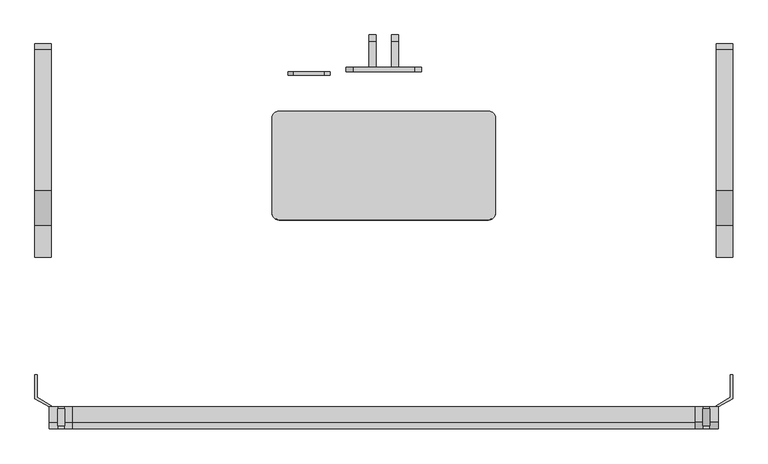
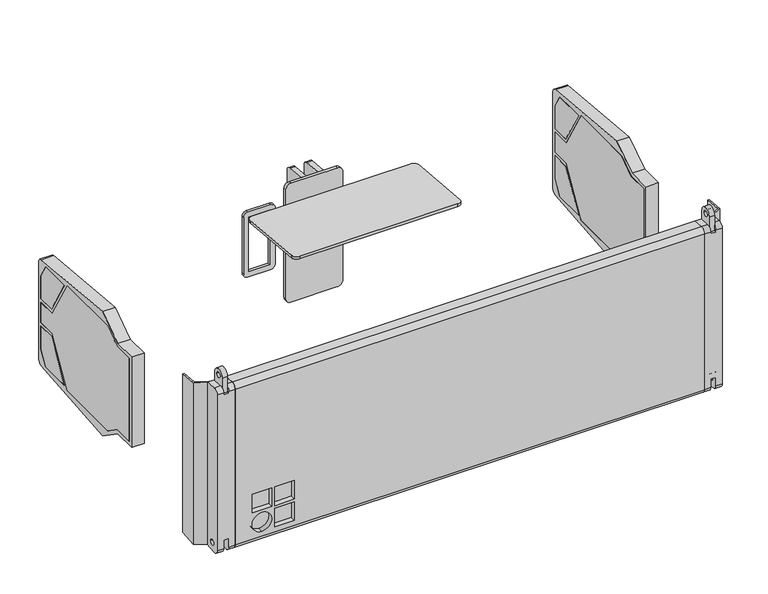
"""IFC4 building model written with IfcOpenShell, lengths in millimetres: proxy geometry, d&b SL-Series KSLi : KSLi12."""

from ifc_helpers import new_model, si_unit, point, frame, frame_2d, origin, place, context, project, spatial, polyline, circle_curve, trimmed, segment, composite_curve, outline, extrude, faceted_brep, source, transform, mapped, element, save
from ifc_brep_helpers import plane_surface, cylinder_surface, revolved_surface, advanced_brep


def communication_devices_46ae4256(model_context):
    return source(origin(), model_context, "Body", "SolidModel", [
        extrude(outline(polyline([(147.6255973, -27.5), (182.6255973, -27.5), (182.6255973, -73.3671206), (167.1479395, -100.1752104), (105.666545, -100.1752104), (147.6255973, -27.5)])), frame((976.4, 0.0, 0.0), z_axis=(1.0, 0.0, 0.0), x_axis=(0.0, 1.0, 0.0)), (0.0, 0.0, 1.0), 23.6),
        extrude(outline(polyline([(147.6255973, 27.5), (105.666545, 100.1752104), (167.1479395, 100.1752104), (182.6255973, 73.3671206), (182.6255973, 27.5), (147.6255973, 27.5)])), frame((976.4, 0.0, 0.0), z_axis=(1.0, 0.0, 0.0), x_axis=(0.0, 1.0, 0.0)), (0.0, 0.0, 1.0), 23.6),
        extrude(outline(polyline([(-108.1244027, 83.5), (-68.3181857, 83.5), (-36.4059524, 105.1752104), (97.006291, 105.1752104), (146.1822216, 20.0), (182.6255973, 20.0), (182.6255973, -20.0), (146.1822216, -20.0), (97.006291, -105.1752104), (-36.4059524, -105.1752104), (-68.3181857, -83.5), (-108.1244027, -83.5), (-108.1244027, 83.5)])), frame((976.4, 0.0, 0.0), z_axis=(1.0, 0.0, 0.0), x_axis=(0.0, 1.0, 0.0)), (0.0, 0.0, 1.0), 23.6),
        extrude(outline(composite_curve([segment(polyline([(-115.6244027, 91.0), (-70.6244027, 91.0), (-20.6244027, 124.9606604), (181.0406135, 106.4302485)]), True, "CONTINUOUS"), segment(trimmed(circle_curve(frame_2d((180.1255973, 96.4721993)), 10.0), [point((181.0406135, 106.4302485))], [point((190.1255973, 96.4721993))], False, "CARTESIAN"), True, "CONTINUOUS"), segment(polyline([(190.1255973, 96.4721993), (190.1255973, -96.4721993)]), True, "CONTINUOUS"), segment(trimmed(circle_curve(frame_2d((180.1255973, -96.4721993)), 10.0), [point((190.1255973, -96.4721993))], [point((181.0406135, -106.4302485))], False, "CARTESIAN"), True, "CONTINUOUS"), segment(polyline([(181.0406135, -106.4302485), (-20.6244027, -124.9606604), (-70.6244027, -91.0), (-115.6244027, -91.0), (-115.6244027, 91.0)]), True, "CONTINUOUS")], self_intersect=False), holes=[polyline([(105.666545, -100.1752104), (167.1479395, -100.1752104), (182.6255973, -73.3671206), (182.6255973, -27.5), (147.6255973, -27.5), (105.666545, -100.1752104)]), polyline([(-108.1244027, -83.5), (-68.3181857, -83.5), (-36.4059524, -105.1752104), (97.006291, -105.1752104), (146.1822216, -20.0), (182.6255973, -20.0), (182.6255973, 20.0), (146.1822216, 20.0), (97.006291, 105.1752104), (-36.4059524, 105.1752104), (-68.3181857, 83.5), (-108.1244027, 83.5), (-108.1244027, -83.5)]), polyline([(105.666545, 100.1752104), (147.6255973, 27.5), (182.6255973, 27.5), (182.6255973, 73.3671206), (167.1479395, 100.1752104), (105.666545, 100.1752104)])]), frame((976.4, 0.0, 0.0), z_axis=(1.0, 0.0, 0.0), x_axis=(0.0, 1.0, 0.0)), (0.0, 0.0, 1.0), 23.6),
        extrude(outline(polyline([(147.6255973, -27.5), (182.6255973, -27.5), (182.6255973, -73.3671206), (167.1479395, -100.1752104), (105.666545, -100.1752104), (147.6255973, -27.5)])), frame((0.0, 0.0, 0.0), z_axis=(1.0, 0.0, 0.0), x_axis=(0.0, 1.0, 0.0)), (0.0, 0.0, 1.0), 23.6),
        extrude(outline(polyline([(147.6255973, 27.5), (105.666545, 100.1752104), (167.1479395, 100.1752104), (182.6255973, 73.3671206), (182.6255973, 27.5), (147.6255973, 27.5)])), frame((0.0, 0.0, 0.0), z_axis=(1.0, 0.0, 0.0), x_axis=(0.0, 1.0, 0.0)), (0.0, 0.0, 1.0), 23.6),
        extrude(outline(polyline([(-108.1244027, 83.5), (-68.3181857, 83.5), (-36.4059524, 105.1752104), (97.006291, 105.1752104), (146.1822216, 20.0), (182.6255973, 20.0), (182.6255973, -20.0), (146.1822216, -20.0), (97.006291, -105.1752104), (-36.4059524, -105.1752104), (-68.3181857, -83.5), (-108.1244027, -83.5), (-108.1244027, 83.5)])), frame((0.0, 0.0, 0.0), z_axis=(1.0, 0.0, 0.0), x_axis=(0.0, 1.0, 0.0)), (0.0, 0.0, 1.0), 23.6),
        extrude(outline(composite_curve([segment(polyline([(-115.6244027, 91.0), (-70.6244027, 91.0), (-20.6244027, 124.9606604), (181.0406135, 106.4302485)]), True, "CONTINUOUS"), segment(trimmed(circle_curve(frame_2d((180.1255973, 96.4721993)), 10.0), [point((181.0406135, 106.4302485))], [point((190.1255973, 96.4721993))], False, "CARTESIAN"), True, "CONTINUOUS"), segment(polyline([(190.1255973, 96.4721993), (190.1255973, -96.4721993)]), True, "CONTINUOUS"), segment(trimmed(circle_curve(frame_2d((180.1255973, -96.4721993)), 10.0), [point((190.1255973, -96.4721993))], [point((181.0406135, -106.4302485))], False, "CARTESIAN"), True, "CONTINUOUS"), segment(polyline([(181.0406135, -106.4302485), (-20.6244027, -124.9606604), (-70.6244027, -91.0), (-115.6244027, -91.0), (-115.6244027, 91.0)]), True, "CONTINUOUS")], self_intersect=False), holes=[polyline([(105.666545, -100.1752104), (167.1479395, -100.1752104), (182.6255973, -73.3671206), (182.6255973, -27.5), (147.6255973, -27.5), (105.666545, -100.1752104)]), polyline([(-108.1244027, -83.5), (-68.3181857, -83.5), (-36.4059524, -105.1752104), (97.006291, -105.1752104), (146.1822216, -20.0), (182.6255973, -20.0), (182.6255973, 20.0), (146.1822216, 20.0), (97.006291, 105.1752104), (-36.4059524, 105.1752104), (-68.3181857, 83.5), (-108.1244027, 83.5), (-108.1244027, -83.5)]), polyline([(105.666545, 100.1752104), (147.6255973, 27.5), (182.6255973, 27.5), (182.6255973, 73.3671206), (167.1479395, 100.1752104), (105.666545, 100.1752104)])]), frame((0.0, 0.0, 0.0), z_axis=(1.0, 0.0, 0.0), x_axis=(0.0, 1.0, 0.0)), (0.0, 0.0, 1.0), 23.6),
        extrude(outline(composite_curve([segment(trimmed(circle_curve(frame_2d((-28.2001586, 371.0)), 8.0), [point((-28.2001586, 363.0))], [point((-36.2001586, 371.0))], False, "CARTESIAN"), True, "CONTINUOUS"), segment(polyline([(-36.2001586, 371.0), (-36.2001586, 415.0)]), True, "CONTINUOUS"), segment(trimmed(circle_curve(frame_2d((-28.2001586, 415.0)), 8.0), [point((-36.2001586, 415.0))], [point((-28.2001586, 423.0))], False, "CARTESIAN"), True, "CONTINUOUS"), segment(polyline([(-28.2001586, 423.0), (85.7998414, 423.0)]), True, "CONTINUOUS"), segment(trimmed(circle_curve(frame_2d((85.7998414, 415.0)), 8.0), [point((85.7998414, 423.0))], [point((93.7998414, 415.0))], False, "CARTESIAN"), True, "CONTINUOUS"), segment(polyline([(93.7998414, 415.0), (93.7998414, 371.0)]), True, "CONTINUOUS"), segment(trimmed(circle_curve(frame_2d((85.7998414, 371.0)), 8.0), [point((93.7998414, 371.0))], [point((85.7998414, 363.0))], False, "CARTESIAN"), True, "CONTINUOUS"), segment(polyline([(85.7998414, 363.0), (-28.2001586, 363.0)]), True, "CONTINUOUS")], self_intersect=False), holes=[polyline([(83.7998414, 373.0), (83.7998414, 413.0), (-26.2001586, 413.0), (-26.2001586, 373.0), (83.7998414, 373.0)])]), frame((0.0, 145.1255973, 0.0), z_axis=(0.0, 1.0, 0.0), x_axis=(0.0, 0.0, 1.0)), (0.0, 0.0, 1.0), 5.0),
        extrude(outline(composite_curve([segment(trimmed(circle_curve(frame_2d((192.6255973, -105.3657381)), 10.0), [point((202.6255973, -105.3657381))], [point((193.5406135, -115.3237873))], False, "CARTESIAN"), True, "CONTINUOUS"), segment(polyline([(193.5406135, -115.3237873), (156.1255973, -118.7617444), (156.1255973, 118.7617444), (193.5406135, 115.3237873)]), True, "CONTINUOUS"), segment(trimmed(circle_curve(frame_2d((192.6255973, 105.3657381)), 10.0), [point((193.5406135, 115.3237873))], [point((202.6255973, 105.3657381))], False, "CARTESIAN"), True, "CONTINUOUS"), segment(polyline([(202.6255973, 105.3657381), (202.6255973, -105.3657381)]), True, "CONTINUOUS")], self_intersect=False)), frame((511.25, 0.0, 0.0), z_axis=(1.0, 0.0, 0.0), x_axis=(0.0, 1.0, 0.0)), (0.0, 0.0, 1.0), 10.0),
        extrude(outline(composite_curve([segment(trimmed(circle_curve(frame_2d((192.6255973, -105.3657381)), 10.0), [point((202.6255973, -105.3657381))], [point((193.5406135, -115.3237873))], False, "CARTESIAN"), True, "CONTINUOUS"), segment(polyline([(193.5406135, -115.3237873), (156.1255973, -118.7617444), (156.1255973, 118.7617444), (193.5406135, 115.3237873)]), True, "CONTINUOUS"), segment(trimmed(circle_curve(frame_2d((192.6255973, 105.3657381)), 10.0), [point((193.5406135, 115.3237873))], [point((202.6255973, 105.3657381))], False, "CARTESIAN"), True, "CONTINUOUS"), segment(polyline([(202.6255973, 105.3657381), (202.6255973, -105.3657381)]), True, "CONTINUOUS")], self_intersect=False)), frame((478.75, 0.0, 0.0), z_axis=(1.0, 0.0, 0.0), x_axis=(0.0, 1.0, 0.0)), (0.0, 0.0, 1.0), 10.0),
        extrude(outline(composite_curve([segment(trimmed(circle_curve(frame_2d((-109.3130669, 456.0)), 10.0), [point((-109.3130669, 446.0))], [point((-119.3130669, 456.0))], False, "CARTESIAN"), True, "CONTINUOUS"), segment(polyline([(-119.3130669, 456.0), (-119.3130669, 544.0)]), True, "CONTINUOUS"), segment(trimmed(circle_curve(frame_2d((-109.3130669, 544.0)), 10.0), [point((-119.3130669, 544.0))], [point((-109.3130669, 554.0))], False, "CARTESIAN"), True, "CONTINUOUS"), segment(polyline([(-109.3130669, 554.0), (109.3130669, 554.0)]), True, "CONTINUOUS"), segment(trimmed(circle_curve(frame_2d((109.3130669, 544.0)), 10.0), [point((109.3130669, 554.0))], [point((119.3130669, 544.0))], False, "CARTESIAN"), True, "CONTINUOUS"), segment(polyline([(119.3130669, 544.0), (119.3130669, 456.0)]), True, "CONTINUOUS"), segment(trimmed(circle_curve(frame_2d((109.3130669, 456.0)), 10.0), [point((119.3130669, 456.0))], [point((109.3130669, 446.0))], False, "CARTESIAN"), True, "CONTINUOUS"), segment(polyline([(109.3130669, 446.0), (-109.3130669, 446.0)]), True, "CONTINUOUS")], self_intersect=False)), frame((0.0, 150.1255973, 0.0), z_axis=(0.0, 1.0, 0.0), x_axis=(0.0, 0.0, 1.0)), (0.0, 0.0, 1.0), 6.0),
        advanced_brep(
        [(945.5, -361.6244027, 156.4713875), (945.5, -361.6244027, -156.4713875), (945.5, -351.8008881, -165.4336319), (945.5, -330.1244027, -163.4418427), (945.5, -330.1244027, 163.4418427), (945.5, -351.8008881, 165.4336319), (54.5, -361.6244027, 156.4713875), (54.5, -351.8008881, 165.4336319), (54.5, -330.1244027, 163.4418427), (54.5, -330.1244027, -163.4418427), (54.5, -351.8008881, -165.4336319), (54.5, -361.6244027, -156.4713875), (123.9761951, -361.6244027, -66.1029929), (123.9761951, -361.6244027, -103.6029929), (86.4761951, -361.6244027, -103.6029929), (86.4761951, -361.6244027, -66.1029929), (166.833338, -361.6244027, -66.1029929), (166.833338, -361.6244027, -103.6029929), (129.333338, -361.6244027, -103.6029929), (129.333338, -361.6244027, -66.1029929), (166.833338, -361.6244027, -108.9601358), (166.833338, -361.6244027, -146.4601358), (129.333338, -361.6244027, -146.4601358), (129.333338, -361.6244027, -108.9601358), (105.2261951, -361.6244027, -108.9601358), (105.2261951, -361.6244027, -146.4601358), (123.9761951, -351.6244027, -66.1029929), (86.4761951, -351.6244027, -66.1029929), (86.4761951, -351.6244027, -103.6029929), (123.9761951, -351.6244027, -103.6029929), (166.833338, -351.6244027, -66.1029929), (129.333338, -351.6244027, -66.1029929), (129.333338, -351.6244027, -103.6029929), (166.833338, -351.6244027, -103.6029929), (166.833338, -351.6244027, -108.9601358), (129.333338, -351.6244027, -108.9601358), (129.333338, -351.6244027, -146.4601358), (166.833338, -351.6244027, -146.4601358), (105.2261951, -351.6244027, -108.9601358), (105.2261951, -351.6244027, -146.4601358)],
        [
            (0, 1),
            (1, 2, circle_curve(frame((945.5, -352.6244027, -156.4713875), z_axis=(1.0, 0.0, 0.0), x_axis=(0.0, 1.0, 0.0)), 9.0)),
            (2, 3),
            (3, 4),
            (4, 5),
            (5, 0, circle_curve(frame((945.5, -352.6244027, 156.4713875), z_axis=(1.0, 0.0, 0.0), x_axis=(0.0, 1.0, 0.0)), 9.0)),
            (6, 7, circle_curve(frame((54.5, -352.6244027, 156.4713875), z_axis=(-1.0, 0.0, 0.0), x_axis=(0.0, 1.0, 0.0)), 9.0)),
            (7, 8),
            (8, 9),
            (9, 10),
            (10, 11, circle_curve(frame((54.5, -352.6244027, -156.4713875), z_axis=(-1.0, 0.0, 0.0), x_axis=(0.0, 1.0, 0.0)), 9.0)),
            (11, 6),
            (0, 6),
            (11, 1),
            (12, 13),
            (13, 14),
            (14, 15),
            (15, 12),
            (16, 17),
            (17, 18),
            (18, 19),
            (19, 16),
            (20, 21),
            (21, 22),
            (22, 23),
            (23, 20),
            (24, 25, circle_curve(frame((105.2261951, -361.6244027, -127.7101358), z_axis=(0.0, 1.0, 0.0), x_axis=(0.0, 0.0, -1.0)), 18.75)),
            (25, 24, circle_curve(frame((105.2261951, -361.6244027, -127.7101358), z_axis=(0.0, 1.0, 0.0), x_axis=(0.0, 0.0, -1.0)), 18.75)),
            (3, 9),
            (8, 4),
            (26, 27),
            (27, 28),
            (28, 29),
            (29, 26),
            (30, 31),
            (31, 32),
            (32, 33),
            (33, 30),
            (34, 35),
            (35, 36),
            (36, 37),
            (37, 34),
            (38, 39, circle_curve(frame((105.2261951, -351.6244027, -127.7101358), z_axis=(0.0, -1.0, 0.0), x_axis=(0.0, 0.0, -1.0)), 18.75)),
            (39, 38, circle_curve(frame((105.2261951, -351.6244027, -127.7101358), z_axis=(0.0, -1.0, 0.0), x_axis=(0.0, 0.0, -1.0)), 18.75)),
            (29, 13),
            (12, 26),
            (28, 14),
            (27, 15),
            (33, 17),
            (16, 30),
            (32, 18),
            (31, 19),
            (37, 21),
            (20, 34),
            (36, 22),
            (35, 23),
            (39, 25),
            (24, 38),
            (10, 2),
            (7, 5),
        ],
        [
            plane_surface(frame((945.5, -361.6244027, -187.4718027), z_axis=(1.0, 0.0, 0.0), x_axis=(0.0, 0.0, -1.0))),
            plane_surface(frame((54.5, -361.6244027, -187.4718027), z_axis=(-1.0, 0.0, 0.0), x_axis=(0.0, 0.0, 1.0))),
            plane_surface(frame((945.5, -361.6244027, 156.4713875), z_axis=(0.0, -1.0, 0.0), x_axis=(-1.0, 0.0, 0.0))),
            plane_surface(frame((945.5, -330.1244027, -163.4418427), z_axis=(0.0, 1.0, 0.0), x_axis=(-1.0, 0.0, 0.0))),
            plane_surface(frame((123.9761951, -351.6244027, -67.3529929), z_axis=(0.0, -1.0, 0.0), x_axis=(0.0, 0.0, -1.0))),
            plane_surface(frame((123.9761951, -351.6244027, -66.1029929), z_axis=(-1.0, 0.0, 0.0), x_axis=(0.0, -1.0, 0.0))),
            plane_surface(frame((123.9761951, -351.6244027, -103.6029929), z_axis=(0.0, 0.0, 1.0), x_axis=(0.0, -1.0, 0.0))),
            plane_surface(frame((86.4761951, -351.6244027, -103.6029929), z_axis=(1.0, 0.0, 0.0), x_axis=(0.0, -1.0, 0.0))),
            plane_surface(frame((86.4761951, -351.6244027, -66.1029929), z_axis=(0.0, 0.0, -1.0), x_axis=(0.0, -1.0, 0.0))),
            plane_surface(frame((166.833338, -351.6244027, -66.1029929), z_axis=(-1.0, 0.0, 0.0), x_axis=(0.0, -1.0, 0.0))),
            plane_surface(frame((166.833338, -351.6244027, -103.6029929), z_axis=(0.0, 0.0, 1.0), x_axis=(0.0, -1.0, 0.0))),
            plane_surface(frame((129.333338, -351.6244027, -103.6029929), z_axis=(1.0, 0.0, 0.0), x_axis=(0.0, -1.0, 0.0))),
            plane_surface(frame((129.333338, -351.6244027, -66.1029929), z_axis=(0.0, 0.0, -1.0), x_axis=(0.0, -1.0, 0.0))),
            plane_surface(frame((166.833338, -351.6244027, -108.9601358), z_axis=(-1.0, 0.0, 0.0), x_axis=(0.0, -1.0, 0.0))),
            plane_surface(frame((166.833338, -351.6244027, -146.4601358), z_axis=(0.0, 0.0, 1.0), x_axis=(0.0, -1.0, 0.0))),
            plane_surface(frame((129.333338, -351.6244027, -146.4601358), z_axis=(1.0, 0.0, 0.0), x_axis=(0.0, -1.0, 0.0))),
            plane_surface(frame((129.333338, -351.6244027, -108.9601358), z_axis=(0.0, 0.0, -1.0), x_axis=(0.0, -1.0, 0.0))),
            revolved_surface(polyline([(105.2261951, -351.6244027, -146.4601358), (105.2261951, -361.6244027, -146.4601358)]), (105.2261951, -361.6244027, -127.7101358), (0.0, 1.0, 0.0)),
            cylinder_surface(frame((54.5, -352.6244027, -156.4713875), z_axis=(1.0, 0.0, 0.0), x_axis=(0.0, 1.0, 0.0)), 9.0),
            plane_surface(frame((945.5, -351.8008881, -165.4336319), z_axis=(0.0, 0.09150161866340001, -0.995804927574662), x_axis=(-1.0, 0.0, 0.0))),
            plane_surface(frame((945.5, -330.1244027, 163.4418427), z_axis=(0.0, 0.09150161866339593, 0.9958049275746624), x_axis=(-1.0, 0.0, 0.0))),
            cylinder_surface(frame((54.5, -352.6244027, 156.4713875), z_axis=(1.0, 0.0, 0.0), x_axis=(0.0, 1.0, 0.0)), 9.0),
        ],
        [
            (0, [[1, 2, 3, 4, 5, 6]]),
            (1, [[7, 8, 9, 10, 11, 12]]),
            (2, [[-1, 13, -12, 14], [15, 16, 17, 18], [19, 20, 21, 22], [23, 24, 25, 26], [27, 28]]),
            (3, [[-4, 29, -9, 30]]),
            (4, [[31, 32, 33, 34]]),
            (4, [[35, 36, 37, 38]]),
            (4, [[39, 40, 41, 42]]),
            (4, [[43, 44]]),
            (5, [[-34, 45, -15, 46]]),
            (6, [[-33, 47, -16, -45]]),
            (7, [[-32, 48, -17, -47]]),
            (8, [[-31, -46, -18, -48]]),
            (9, [[-38, 49, -19, 50]]),
            (10, [[-37, 51, -20, -49]]),
            (11, [[-36, 52, -21, -51]]),
            (12, [[-35, -50, -22, -52]]),
            (13, [[-42, 53, -23, 54]]),
            (14, [[-41, 55, -24, -53]]),
            (15, [[-40, 56, -25, -55]]),
            (16, [[-39, -54, -26, -56]]),
            (17, [[-44, 57, -27, 58]]),
            (17, [[-43, -58, -28, -57]]),
            (18, [[-2, -14, -11, 59]]),
            (19, [[-3, -59, -10, -29]]),
            (20, [[-5, -30, -8, 60]]),
            (21, [[-6, -60, -7, -13]]),
        ],
    ),
        extrude(outline(composite_curve([segment(trimmed(circle_curve(frame_2d((-344.8744027, 183.1962861)), 12.0), [point((-356.8744027, 183.1962861))], [point((-332.8744027, 183.1962861))], False, "CARTESIAN"), True, "CONTINUOUS"), segment(polyline([(-332.8744027, 183.1962861), (-332.8744027, 152.6966304), (-356.8744027, 152.6966304), (-356.8744027, 183.1962861)]), True, "CONTINUOUS")], self_intersect=False), holes=[composite_curve([segment(trimmed(circle_curve(frame_2d((-344.8744027, 183.1962861)), 5.15), [point((-350.0244027, 183.1962861))], [point((-339.7244027, 183.1962861))], True, "CARTESIAN"), True, "CONTINUOUS"), segment(trimmed(circle_curve(frame_2d((-344.8744027, 183.1962861)), 5.15), [point((-339.7244027, 183.1962861))], [point((-350.0244027, 183.1962861))], True, "CARTESIAN"), True, "CONTINUOUS")], self_intersect=False)]), frame((957.5, 0.0, 0.0), z_axis=(1.0, 0.0, 0.0), x_axis=(0.0, 1.0, 0.0)), (0.0, 0.0, 1.0), 10.0),
        advanced_brep(
        [(967.5, -361.6244027, 156.4713875), (967.5, -351.8008881, 165.4336319), (967.5, -330.1244027, 163.4418427), (967.5, -330.1244027, 152.6966304), (967.5, -361.6244027, 152.6966304), (967.5, -330.1244027, -163.4418427), (967.5, -351.8008881, -165.4336319), (967.5, -361.6244027, -156.4713875), (967.5, -361.6244027, -139.1319786), (967.5, -330.1244027, -139.1319786), (967.5, -350.0744027, -149.0), (967.5, -339.6744027, -149.0), (979.5, -361.6244027, 156.4713875), (979.5, -361.6244027, -156.4713875), (979.5, -351.8008881, -165.4336319), (979.5, -330.1244027, -163.4418427), (979.5, -330.1244027, 163.4418427), (979.5, -351.8008881, 165.4336319), (979.5, -350.0744027, -149.0), (979.5, -339.6744027, -149.0), (957.5, -361.6244027, -139.1319786), (957.5, -330.1244027, -139.1319786), (957.5, -361.6244027, 152.6966304), (957.5, -330.1244027, 152.6966304), (945.5, -361.6244027, 156.4713875), (945.5, -351.8008881, 165.4336319), (945.5, -330.1244027, 163.4418427), (945.5, -330.1244027, -163.4418427), (945.5, -351.8008881, -165.4336319), (945.5, -361.6244027, -156.4713875), (957.5, -361.6244027, -156.4713875), (957.5, -351.8008881, -165.4336319), (957.5, -330.1244027, -163.4418427), (957.5, -330.1244027, 163.4418427), (957.5, -351.8008881, 165.4336319), (957.5, -361.6244027, 156.4713875)],
        [
            (0, 1, circle_curve(frame((967.5, -352.6244027, 156.4713875), z_axis=(-1.0, 0.0, 0.0), x_axis=(0.0, 1.0, 0.0)), 9.0)),
            (1, 2),
            (2, 3),
            (3, 4),
            (4, 0),
            (5, 6),
            (6, 7, circle_curve(frame((967.5, -352.6244027, -156.4713875), z_axis=(-1.0, 0.0, 0.0), x_axis=(0.0, 1.0, 0.0)), 9.0)),
            (7, 8),
            (8, 9),
            (9, 5),
            (10, 11, circle_curve(frame((967.5, -344.8744027, -149.0), z_axis=(1.0, 0.0, 0.0), x_axis=(0.0, 1.0, 0.0)), 5.2)),
            (11, 10, circle_curve(frame((967.5, -344.8744027, -149.0), z_axis=(1.0, 0.0, 0.0), x_axis=(0.0, 1.0, 0.0)), 5.2)),
            (12, 13),
            (13, 14, circle_curve(frame((979.5, -352.6244027, -156.4713875), z_axis=(1.0, 0.0, 0.0), x_axis=(0.0, 1.0, 0.0)), 9.0)),
            (14, 15),
            (15, 16),
            (16, 17),
            (17, 12, circle_curve(frame((979.5, -352.6244027, 156.4713875), z_axis=(1.0, 0.0, 0.0), x_axis=(0.0, 1.0, 0.0)), 9.0)),
            (18, 19, circle_curve(frame((979.5, -344.8744027, -149.0), z_axis=(-1.0, 0.0, 0.0), x_axis=(0.0, 1.0, 0.0)), 5.2)),
            (19, 18, circle_curve(frame((979.5, -344.8744027, -149.0), z_axis=(-1.0, 0.0, 0.0), x_axis=(0.0, 1.0, 0.0)), 5.2)),
            (8, 20),
            (20, 21),
            (21, 9),
            (22, 4),
            (3, 23),
            (23, 22),
            (24, 25, circle_curve(frame((945.5, -352.6244027, 156.4713875), z_axis=(-1.0, 0.0, 0.0), x_axis=(0.0, 1.0, 0.0)), 9.0)),
            (25, 26),
            (26, 27),
            (27, 28),
            (28, 29, circle_curve(frame((945.5, -352.6244027, -156.4713875), z_axis=(-1.0, 0.0, 0.0), x_axis=(0.0, 1.0, 0.0)), 9.0)),
            (29, 24),
            (30, 31, circle_curve(frame((957.5, -352.6244027, -156.4713875), z_axis=(1.0, 0.0, 0.0), x_axis=(0.0, 1.0, 0.0)), 9.0)),
            (31, 32),
            (32, 21),
            (20, 30),
            (33, 34),
            (34, 35, circle_curve(frame((957.5, -352.6244027, 156.4713875), z_axis=(1.0, 0.0, 0.0), x_axis=(0.0, 1.0, 0.0)), 9.0)),
            (35, 22),
            (23, 33),
            (24, 35),
            (34, 25),
            (33, 26),
            (27, 32),
            (31, 28),
            (30, 29),
            (0, 12),
            (17, 1),
            (16, 2),
            (15, 5),
            (14, 6),
            (13, 7),
            (10, 18),
            (19, 11),
        ],
        [
            plane_surface(frame((967.5, -343.6244027, 156.4713875), z_axis=(-1.0, 0.0, 0.0), x_axis=(0.0, 0.0, -1.0))),
            plane_surface(frame((979.5, -343.6244027, 156.4713875), z_axis=(1.0, 0.0, 0.0), x_axis=(0.0, 0.0, 1.0))),
            plane_surface(frame((957.5, -330.1244027, -139.1319786), z_axis=(0.0, 0.0, -1.0), x_axis=(1.0, 0.0, 0.0))),
            plane_surface(frame((957.5, -361.6244027, 152.6966304), z_axis=(0.0, 0.0, 1.0), x_axis=(1.0, 0.0, 0.0))),
            plane_surface(frame((945.5, -343.6244027, 156.4713875), z_axis=(-1.0, 0.0, 0.0), x_axis=(0.0, 0.0, -1.0))),
            plane_surface(frame((957.5, -343.6244027, 156.4713875), z_axis=(1.0, 0.0, 0.0), x_axis=(0.0, 0.0, 1.0))),
            cylinder_surface(frame((957.5, -352.6244027, 156.4713875), z_axis=(-1.0, 0.0, 0.0), x_axis=(0.0, 1.0, 0.0)), 9.0),
            plane_surface(frame((945.5, -351.8008881, 165.4336319), z_axis=(0.0, 0.0915016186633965, 0.9958049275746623), x_axis=(1.0, 0.0, 0.0))),
            plane_surface(frame((945.5, -330.1244027, -163.4418427), z_axis=(0.0, 0.09150161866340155, -0.9958049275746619), x_axis=(1.0, 0.0, 0.0))),
            cylinder_surface(frame((957.5, -352.6244027, -156.4713875), z_axis=(-1.0, 0.0, 0.0), x_axis=(0.0, 1.0, 0.0)), 9.0),
            cylinder_surface(frame((979.5, -352.6244027, 156.4713875), z_axis=(-1.0, 0.0, 0.0), x_axis=(0.0, 1.0, 0.0)), 9.0),
            plane_surface(frame((967.5, -351.8008881, 165.4336319), z_axis=(0.0, 0.0915016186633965, 0.9958049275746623), x_axis=(1.0, 0.0, 0.0))),
            plane_surface(frame((967.5, -330.1244027, 163.4418427), z_axis=(0.0, 1.0, 0.0), x_axis=(1.0, 0.0, 0.0))),
            plane_surface(frame((967.5, -330.1244027, -163.4418427), z_axis=(0.0, 0.09150161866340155, -0.9958049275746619), x_axis=(1.0, 0.0, 0.0))),
            cylinder_surface(frame((979.5, -352.6244027, -156.4713875), z_axis=(-1.0, 0.0, 0.0), x_axis=(0.0, 1.0, 0.0)), 9.0),
            plane_surface(frame((967.5, -361.6244027, -156.4713875), z_axis=(0.0, -1.0, 0.0), x_axis=(1.0, 0.0, 0.0))),
            revolved_surface(polyline([(979.5, -339.67440270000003, -149.0), (967.5, -339.67440270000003, -149.0)]), (500.0, -344.8744027, -149.0), (1.0, 0.0, 0.0)),
        ],
        [
            (0, [[1, 2, 3, 4, 5]]),
            (0, [[6, 7, 8, 9, 10], [11, 12]]),
            (1, [[13, 14, 15, 16, 17, 18], [19, 20]]),
            (2, [[21, 22, 23, -9]]),
            (3, [[24, -4, 25, 26]]),
            (4, [[27, 28, 29, 30, 31, 32]]),
            (5, [[33, 34, 35, -22, 36]]),
            (5, [[37, 38, 39, -26, 40]]),
            (6, [[-27, 41, -38, 42]]),
            (7, [[-28, -42, -37, 43]]),
            (8, [[-30, 44, -34, 45]]),
            (9, [[-31, -45, -33, 46]]),
            (10, [[-1, 47, -18, 48]]),
            (11, [[-2, -48, -17, 49]]),
            (12, [[-16, 50, -10, -23, -35, -44, -29, -43, -40, -25, -3, -49]]),
            (13, [[-6, -50, -15, 51]]),
            (14, [[-7, -51, -14, 52]]),
            (15, [[-13, -47, -5, -24, -39, -41, -32, -46, -36, -21, -8, -52]]),
            (16, [[-11, 53, -20, 54]]),
            (16, [[-12, -54, -19, -53]]),
        ],
    ),
        extrude(outline(composite_curve([segment(trimmed(circle_curve(frame_2d((-344.8744027, 183.1962861)), 12.0), [point((-356.8744027, 183.1962861))], [point((-332.8744027, 183.1962861))], False, "CARTESIAN"), True, "CONTINUOUS"), segment(polyline([(-332.8744027, 183.1962861), (-332.8744027, 152.6966304), (-356.8744027, 152.6966304), (-356.8744027, 183.1962861)]), True, "CONTINUOUS")], self_intersect=False), holes=[composite_curve([segment(trimmed(circle_curve(frame_2d((-344.8744027, 183.1962861)), 5.15), [point((-350.0244027, 183.1962861))], [point((-339.7244027, 183.1962861))], True, "CARTESIAN"), True, "CONTINUOUS"), segment(trimmed(circle_curve(frame_2d((-344.8744027, 183.1962861)), 5.15), [point((-339.7244027, 183.1962861))], [point((-350.0244027, 183.1962861))], True, "CARTESIAN"), True, "CONTINUOUS")], self_intersect=False)]), frame((32.5, 0.0, 0.0), z_axis=(1.0, 0.0, 0.0), x_axis=(0.0, 1.0, 0.0)), (0.0, 0.0, 1.0), 10.0),
        advanced_brep(
        [(32.5, -361.6244027, -156.4713875), (32.5, -351.8008881, -165.4336319), (32.5, -336.6244027, -164.0391088), (32.5, -330.1244027, -163.4418427), (32.5, -330.1244027, -139.1319786), (32.5, -361.6244027, -139.1319786), (32.5, -350.0744027, -149.0), (32.5, -339.6744027, -149.0), (32.5, -351.8008881, 165.4336319), (32.5, -361.6244027, 156.4713875), (32.5, -361.6244027, 152.6966304), (32.5, -330.1244027, 152.6966304), (32.5, -330.1244027, 163.4418427), (32.5, -336.6244027, 164.0391088), (20.5, -361.6244027, 156.4713875), (20.5, -351.8008881, 165.4336319), (20.5, -336.6244027, 164.0391088), (20.5, -330.1244027, 163.4418427), (20.5, -330.1244027, -163.4418427), (20.5, -336.6244027, -164.0391088), (20.5, -351.8008881, -165.4336319), (20.5, -361.6244027, -156.4713875), (20.5, -350.0744027, -149.0), (20.5, -339.6744027, -149.0), (42.5, -361.6244027, -139.1319786), (42.5, -361.6244027, -156.4713875), (54.5, -361.6244027, -156.4713875), (54.5, -361.6244027, 156.4713875), (42.5, -361.6244027, 156.4713875), (42.5, -361.6244027, 152.6966304), (42.5, -330.1244027, 152.6966304), (42.5, -330.1244027, 163.4418427), (54.5, -330.1244027, 163.4418427), (54.5, -330.1244027, -163.4418427), (42.5, -330.1244027, -163.4418427), (42.5, -330.1244027, -139.1319786), (54.5, -351.8008881, -165.4336319), (54.5, -351.8008881, 165.4336319), (42.5, -351.8008881, 165.4336319), (42.5, -351.8008881, -165.4336319)],
        [
            (0, 1, circle_curve(frame((32.5, -352.6244027, -156.4713875), z_axis=(1.0, 0.0, 0.0), x_axis=(0.0, 1.0, 0.0)), 9.0)),
            (1, 2),
            (2, 3),
            (3, 4),
            (4, 5),
            (5, 0),
            (6, 7, circle_curve(frame((32.5, -344.8744027, -149.0), z_axis=(-1.0, 0.0, 0.0), x_axis=(0.0, 1.0, 0.0)), 5.2)),
            (7, 6, circle_curve(frame((32.5, -344.8744027, -149.0), z_axis=(-1.0, 0.0, 0.0), x_axis=(0.0, 1.0, 0.0)), 5.2)),
            (8, 9, circle_curve(frame((32.5, -352.6244027, 156.4713875), z_axis=(1.0, 0.0, 0.0), x_axis=(0.0, 1.0, 0.0)), 9.0)),
            (9, 10),
            (10, 11),
            (11, 12),
            (12, 13),
            (13, 8),
            (14, 15, circle_curve(frame((20.5, -352.6244027, 156.4713875), z_axis=(-1.0, 0.0, 0.0), x_axis=(0.0, 1.0, 0.0)), 9.0)),
            (15, 16),
            (16, 17),
            (17, 18),
            (18, 19),
            (19, 20),
            (20, 21, circle_curve(frame((20.5, -352.6244027, -156.4713875), z_axis=(-1.0, 0.0, 0.0), x_axis=(0.0, 1.0, 0.0)), 9.0)),
            (21, 14),
            (22, 23, circle_curve(frame((20.5, -344.8744027, -149.0), z_axis=(1.0, 0.0, 0.0), x_axis=(0.0, 1.0, 0.0)), 5.2)),
            (23, 22, circle_curve(frame((20.5, -344.8744027, -149.0), z_axis=(1.0, 0.0, 0.0), x_axis=(0.0, 1.0, 0.0)), 5.2)),
            (21, 0),
            (5, 24),
            (24, 25),
            (25, 26),
            (26, 27),
            (27, 28),
            (28, 29),
            (29, 10),
            (9, 14),
            (17, 12),
            (11, 30),
            (30, 31),
            (31, 32),
            (32, 33),
            (33, 34),
            (34, 35),
            (35, 4),
            (3, 18),
            (6, 22),
            (23, 7),
            (35, 24),
            (29, 30),
            (26, 36, circle_curve(frame((54.5, -352.6244027, -156.4713875), z_axis=(1.0, 0.0, 0.0), x_axis=(0.0, 1.0, 0.0)), 9.0)),
            (36, 33),
            (32, 37),
            (37, 27, circle_curve(frame((54.5, -352.6244027, 156.4713875), z_axis=(1.0, 0.0, 0.0), x_axis=(0.0, 1.0, 0.0)), 9.0)),
            (28, 38, circle_curve(frame((42.5, -352.6244027, 156.4713875), z_axis=(-1.0, 0.0, 0.0), x_axis=(0.0, 1.0, 0.0)), 9.0)),
            (38, 31),
            (34, 39),
            (39, 25, circle_curve(frame((42.5, -352.6244027, -156.4713875), z_axis=(-1.0, 0.0, 0.0), x_axis=(0.0, 1.0, 0.0)), 9.0)),
            (20, 1),
            (15, 8),
            (39, 36),
            (38, 37),
        ],
        [
            plane_surface(frame((32.5, -361.6244027, -187.4718027), z_axis=(1.0, 0.0, 0.0), x_axis=(0.0, 0.0, -1.0))),
            plane_surface(frame((20.5, -361.6244027, -187.4718027), z_axis=(-1.0, 0.0, 0.0), x_axis=(0.0, 0.0, 1.0))),
            plane_surface(frame((32.5, -361.6244027, 156.4713875), z_axis=(0.0, -1.0, 0.0), x_axis=(-1.0, 0.0, 0.0))),
            plane_surface(frame((32.5, -330.1244027, -163.4418427), z_axis=(0.0, 1.0, 0.0), x_axis=(-1.0, 0.0, 0.0))),
            revolved_surface(polyline([(20.5, -339.67440270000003, -149.0), (32.5, -339.67440270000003, -149.0)]), (500.0, -344.8744027, -149.0), (-1.0, 0.0, 0.0)),
            plane_surface(frame((42.5, -361.6244027, -139.1319786), z_axis=(0.0, 0.0, -1.0), x_axis=(-1.0, 0.0, 0.0))),
            plane_surface(frame((42.5, -330.1244027, 152.6966304), z_axis=(0.0, 0.0, 1.0), x_axis=(-1.0, 0.0, 0.0))),
            plane_surface(frame((54.5, -361.6244027, -187.4718027), z_axis=(1.0, 0.0, 0.0), x_axis=(0.0, 0.0, -1.0))),
            plane_surface(frame((42.5, -361.6244027, -187.4718027), z_axis=(-1.0, 0.0, 0.0), x_axis=(0.0, 0.0, 1.0))),
            cylinder_surface(frame((20.5, -352.6244027, -156.4713875), z_axis=(1.0, 0.0, 0.0), x_axis=(0.0, 1.0, 0.0)), 9.0),
            plane_surface(frame((32.5, -351.8008881, -165.4336319), z_axis=(0.0, 0.09150161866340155, -0.9958049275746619), x_axis=(-1.0, 0.0, 0.0))),
            plane_surface(frame((32.5, -330.1244027, 163.4418427), z_axis=(0.0, 0.09150161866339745, 0.9958049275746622), x_axis=(-1.0, 0.0, 0.0))),
            cylinder_surface(frame((20.5, -352.6244027, 156.4713875), z_axis=(1.0, 0.0, 0.0), x_axis=(0.0, 1.0, 0.0)), 9.0),
            cylinder_surface(frame((42.5, -352.6244027, -156.4713875), z_axis=(1.0, 0.0, 0.0), x_axis=(0.0, 1.0, 0.0)), 9.0),
            plane_surface(frame((54.5, -351.8008881, -165.4336319), z_axis=(0.0, 0.09150161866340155, -0.9958049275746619), x_axis=(-1.0, 0.0, 0.0))),
            plane_surface(frame((54.5, -330.1244027, 163.4418427), z_axis=(0.0, 0.0915016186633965, 0.9958049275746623), x_axis=(-1.0, 0.0, 0.0))),
            cylinder_surface(frame((42.5, -352.6244027, 156.4713875), z_axis=(1.0, 0.0, 0.0), x_axis=(0.0, 1.0, 0.0)), 9.0),
        ],
        [
            (0, [[1, 2, 3, 4, 5, 6], [7, 8]]),
            (0, [[9, 10, 11, 12, 13, 14]]),
            (1, [[15, 16, 17, 18, 19, 20, 21, 22], [23, 24]]),
            (2, [[-22, 25, -6, 26, 27, 28, 29, 30, 31, 32, -10, 33]]),
            (3, [[-18, 34, -12, 35, 36, 37, 38, 39, 40, 41, -4, 42]]),
            (4, [[-7, 43, -24, 44]]),
            (4, [[-8, -44, -23, -43]]),
            (5, [[-26, -5, -41, 45]]),
            (6, [[-32, 46, -35, -11]]),
            (7, [[-29, 47, 48, -38, 49, 50]]),
            (8, [[51, 52, -36, -46, -31]]),
            (8, [[53, 54, -27, -45, -40]]),
            (9, [[-1, -25, -21, 55]]),
            (10, [[-42, -3, -2, -55, -20, -19]]),
            (11, [[-34, -17, -16, 56, -14, -13]]),
            (12, [[-9, -56, -15, -33]]),
            (13, [[-47, -28, -54, 57]]),
            (14, [[-48, -57, -53, -39]]),
            (15, [[-49, -37, -52, 58]]),
            (16, [[-50, -58, -51, -30]]),
        ],
    ),
        faceted_brep([(3.0, -283.8744027, 159.1920647), (3.0, -283.8744027, -159.1920647), (0.0, -283.8744027, -159.1920647), (0.0, -283.8744027, 159.1920647), (0.0, -318.2887222, -162.3542964), (0.0, -318.2887222, 162.3542964), (20.5, -330.1244027, -163.4418427), (20.5, -330.1244027, 163.4418427), (23.5, -330.1244027, -163.4418427), (23.5, -330.1244027, 163.4418427), (23.5, -328.3923519, -163.2826896), (23.5, -328.3923519, 163.2826896), (3.0, -316.5566714, -162.1951433), (3.0, -316.5566714, 162.1951433)], [[[0, 1, 2, 3]], [[3, 2, 4, 5]], [[5, 4, 6, 7]], [[7, 6, 8, 9]], [[9, 8, 10, 11]], [[11, 10, 12, 13]], [[1, 0, 13, 12]], [[0, 3, 5, 7, 9, 11, 13]], [[2, 1, 12, 10, 8, 6, 4]]]),
        faceted_brep([(997.0, -283.8744027, 159.1920647), (997.0, -283.8744027, -159.1920647), (997.0, -316.5566714, -162.1951433), (997.0, -316.5566714, 162.1951433), (976.5, -328.3923519, -163.2826896), (976.5, -328.3923519, 163.2826896), (976.5, -330.1244027, -163.4418427), (976.5, -330.1244027, 163.4418427), (979.5, -330.1244027, -163.4418427), (979.5, -330.1244027, 163.4418427), (1000.0, -318.2887222, -162.3542964), (1000.0, -318.2887222, 162.3542964), (1000.0, -283.8744027, -159.1920647), (1000.0, -283.8744027, 159.1920647)], [[[0, 1, 2, 3]], [[3, 2, 4, 5]], [[5, 4, 6, 7]], [[7, 6, 8, 9]], [[9, 8, 10, 11]], [[11, 10, 12, 13]], [[1, 0, 13, 12]], [[0, 3, 5, 7, 9, 11, 13]], [[2, 1, 12, 10, 8, 6, 4]]]),
        extrude(outline(composite_curve([segment(polyline([(0.0, 0.0), (300.0, 0.0)]), True, "CONTINUOUS"), segment(trimmed(circle_curve(frame_2d((300.0, -10.0)), 10.0), [point((300.0, 0.0))], [point((310.0, -10.0))], False, "CARTESIAN"), True, "CONTINUOUS"), segment(polyline([(310.0, -10.0), (310.0, -146.286204)]), True, "CONTINUOUS"), segment(trimmed(circle_curve(frame_2d((300.0, -146.286204)), 10.0), [point((310.0, -146.286204))], [point((300.0, -156.286204))], False, "CARTESIAN"), True, "CONTINUOUS"), segment(polyline([(300.0, -156.286204), (0.0, -156.286204)]), True, "CONTINUOUS"), segment(trimmed(circle_curve(frame_2d((0.0, -146.286204)), 10.0), [point((0.0, -156.286204))], [point((-10.0, -146.286204))], False, "CARTESIAN"), True, "CONTINUOUS"), segment(polyline([(-10.0, -146.286204), (-10.0, -10.0)]), True, "CONTINUOUS"), segment(trimmed(circle_curve(frame_2d((0.0, -10.0)), 10.0), [point((-10.0, -10.0))], [point((0.0, 0.0))], False, "CARTESIAN"), True, "CONTINUOUS")], self_intersect=False)), frame((650.0, -62.4984542, 133.8294089), z_axis=(0.0, 0.09150161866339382, 0.9958049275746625), x_axis=(-1.0, 0.0, 0.0)), (0.0, 0.0, 1.0), 5.0),
    ])


if __name__ == "__main__":
    model = new_model("IFC4")
    model_context = context("Model", 3, world=origin())
    ifc_project = project(units=[si_unit("LENGTHUNIT", "METRE", prefix="MILLI")], contexts=[model_context])
    site = spatial("IfcSite", under=ifc_project)
    building = spatial("IfcBuilding", under=site)
    placement = place(None, origin())
    communication_devices_shape = communication_devices_46ae4256(model_context)
    element("IfcBuildingElementProxy", 1, Name="d&b SL-Series KSLi : KSLi12", ObjectType="d&b SL-Series KSLi : KSLi12", at=placement, inside=building, context=model_context, shape_type="MappedRepresentation", body=[
        mapped(communication_devices_shape, transform((0.0, 0.0, 0.0), x_axis=(1.0, 0.0, 0.0), y_axis=(0.0, 1.0, 0.0), z_axis=(0.0, 0.0, 1.0))),
    ])
    save(model, "model.ifc")
